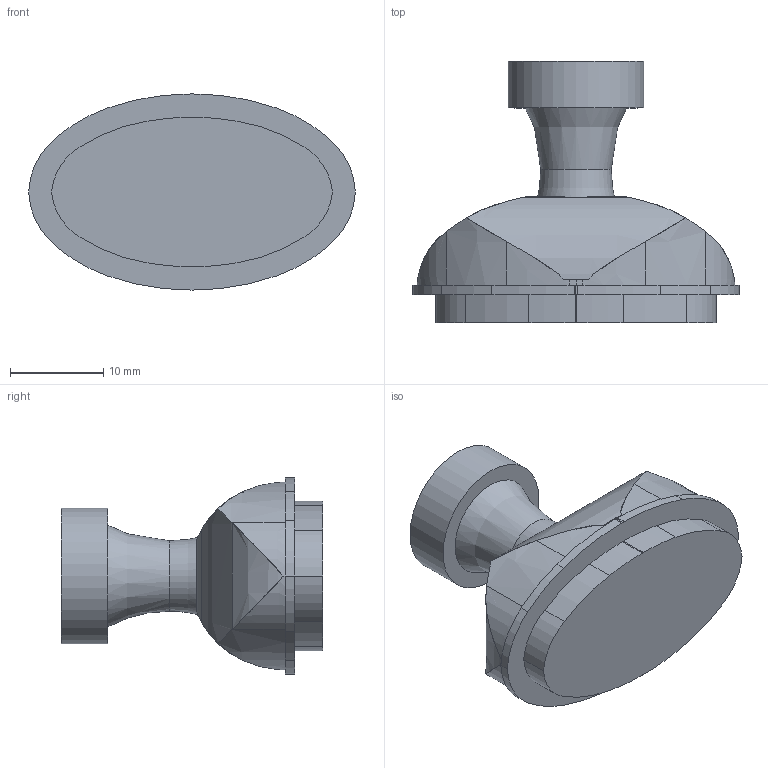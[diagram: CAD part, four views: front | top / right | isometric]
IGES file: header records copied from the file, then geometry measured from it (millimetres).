
Start section: Data from Parasolid IGES Translator 15.0.47, Copyright(c) 2006 Siemens P LM Software. All Rights Reserved.
Global section: file name: 9113236.igs; native system:  By UGS Corp.; preprocessor: XPlus GENERIC/IGES 3.0; author: Noname; organization: Noname; date: 20160502.175700; units: millimetre
Bounding box: 35 x 28 x 21 mm (x, y, z)
Surface area: 2761.1 mm2 (no closed solid volume)
Topology: 0 solids, 0 shells, 71 faces, 388 edges, 386 vertices
Faces by surface type: revolution 58, extrusion 13
